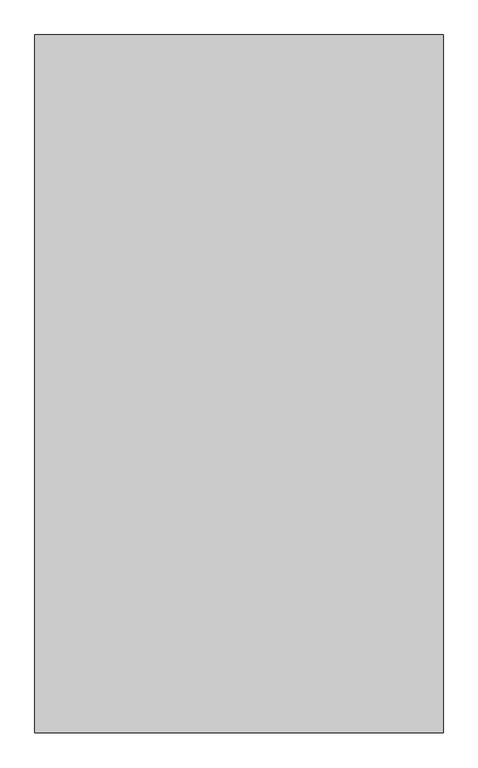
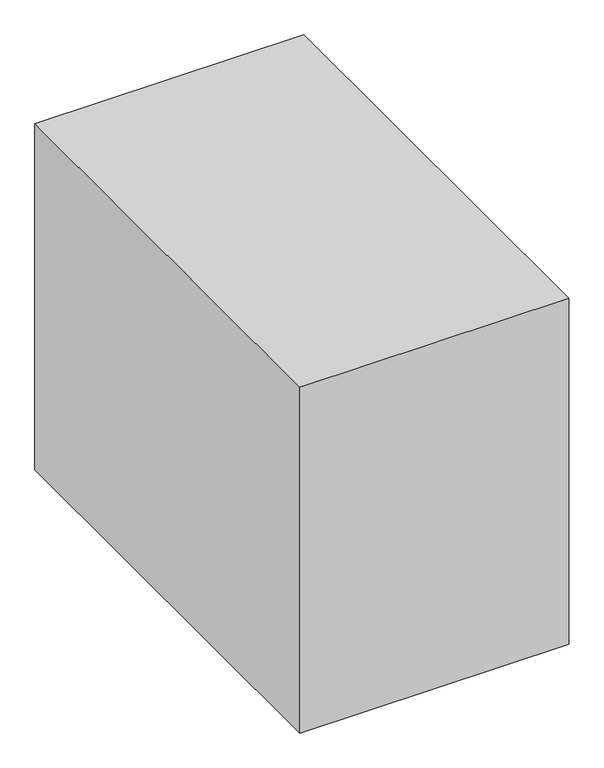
"""IFC4 building model written with IfcOpenShell, lengths in millimetres: proxy geometry."""

import ifcopenshell
import ifcopenshell.guid

model = None  # the IFC model being written
_history = None  # IfcOwnerHistory: only IFC2X3 demands one
_inside = {}  # id of a spatial element -> (the spatial element, [elements in it])
_under = {}  # id of a project, library or spatial element -> (it, [spatial elements below it])
_declared = {}  # id of a project -> (the project, [libraries it declares])
_typed = {}  # id of a type object -> (the type object, [elements of that type])
_made_of = {}  # id of a material, layer set ... -> (it, [elements and type objects made of it])


def new_model(schema):
    """Start an empty IFC model of exactly this schema.

    Asked for "IFC4X3", IfcOpenShell would pick the latest addendum, in which some entities
    have other attributes; the version numbers below select the first issue.
    IFC2X3 requires an IfcOwnerHistory on every rooted entity: one is made here for all.
    """
    global model, _history
    if schema == "IFC4X3":
        model = ifcopenshell.file(schema_version=(4, 3, 0, 0))
    else:
        model = ifcopenshell.file(schema=schema)
    _inside.clear()
    _under.clear()
    _declared.clear()
    _typed.clear()
    _made_of.clear()
    _history = None
    if model.schema == "IFC2X3":
        org = make("IfcOrganization", Name="unknown")
        user = make(
            "IfcPersonAndOrganization",
            ThePerson=make("IfcPerson", FamilyName="unknown"),
            TheOrganization=org,
        )
        app = make(
            "IfcApplication",
            ApplicationDeveloper=org,
            Version="unknown",
            ApplicationFullName="unknown",
            ApplicationIdentifier="unknown",
        )
        _history = make(
            "IfcOwnerHistory",
            OwningUser=user,
            OwningApplication=app,
            ChangeAction="ADDED",
            CreationDate=0,
        )
    return model


def make(cls, **values):
    """One entity of the class cls with the attributes given. An attribute that is None is left unset."""
    return model.create_entity(
        cls, **{name: value for name, value in values.items() if value is not None}
    )


def rooted(cls, **values):
    """An entity with a GlobalId (a new one), such as an element, a storey or a relation."""
    return make(cls, GlobalId=ifcopenshell.guid.new(), OwnerHistory=_history, **values)


def si_unit(unit_type, name, prefix=None):
    """IfcSIUnit, for example si_unit("LENGTHUNIT", "METRE", prefix="MILLI")."""
    return make("IfcSIUnit", UnitType=unit_type, Prefix=prefix, Name=name)


def assignment(units):
    """IfcUnitAssignment: the units of a project."""
    return None if units is None else make("IfcUnitAssignment", Units=units)


def point(xyz):
    """IfcCartesianPoint."""
    return None if xyz is None else make("IfcCartesianPoint", Coordinates=xyz)


def direction(xyz):
    """IfcDirection."""
    return None if xyz is None else make("IfcDirection", DirectionRatios=xyz)


def frame(location, z_axis=None, x_axis=None):
    """IfcAxis2Placement3D, a coordinate frame: its origin and axes. An axis left out is left unset."""
    return make(
        "IfcAxis2Placement3D",
        Location=point(location),
        Axis=direction(z_axis),
        RefDirection=direction(x_axis),
    )


def origin():
    """The frame at (0, 0, 0) with its axes left unset."""
    return frame((0.0, 0.0, 0.0))


def origin_with_axes():
    """The frame at (0, 0, 0) with the z axis (0, 0, 1) and the x axis (1, 0, 0) written out."""
    return frame((0.0, 0.0, 0.0), z_axis=(0.0, 0.0, 1.0), x_axis=(1.0, 0.0, 0.0))


def place(relative_to, where):
    """IfcLocalPlacement: puts the frame where relative to a parent placement (None: the world)."""
    return make(
        "IfcLocalPlacement", PlacementRelTo=relative_to, RelativePlacement=where
    )


def context(
    kind, dimensions, precision=None, world=None, true_north=None, identifier=None
):
    """IfcGeometricRepresentationContext, for example the 3D "Model" context."""
    return make(
        "IfcGeometricRepresentationContext",
        ContextIdentifier=identifier,
        ContextType=kind,
        CoordinateSpaceDimension=dimensions,
        Precision=precision,
        WorldCoordinateSystem=world,
        TrueNorth=true_north,
    )


def project(units=None, contexts=None):
    """IfcProject with its units and contexts."""
    return rooted(
        "IfcProject",
        Name="project",
        RepresentationContexts=contexts,
        UnitsInContext=assignment(units),
    )


def spatial(cls, under=None, at=None, **own):
    """A site, building, storey or space (cls), placed at a placement, below another one or the project."""
    s = rooted(cls, ObjectPlacement=at, **own)
    if under is not None:
        _under.setdefault(under.id(), (under, []))[1].append(s)
    return s


def polyline(points):
    """IfcPolyline through the points."""
    return make("IfcPolyline", Points=[point(p) for p in points])


def outline(outer, holes=None, kind="AREA"):
    """IfcArbitraryClosedProfileDef: a profile drawn as a closed curve; with holes, ...WithVoids."""
    if holes is None:
        return make("IfcArbitraryClosedProfileDef", ProfileType=kind, OuterCurve=outer)
    return make(
        "IfcArbitraryProfileDefWithVoids",
        ProfileType=kind,
        OuterCurve=outer,
        InnerCurves=holes,
    )


def extrude(swept, where, along, depth):
    """IfcExtrudedAreaSolid: the profile swept, set in the frame where, extruded along a direction by depth."""
    return make(
        "IfcExtrudedAreaSolid",
        SweptArea=swept,
        Position=where,
        ExtrudedDirection=direction(along),
        Depth=depth,
    )


def shape(context_of_items, identifier, shape_type, items):
    """IfcShapeRepresentation: the items that make up one representation, for example the "Body"."""
    return make(
        "IfcShapeRepresentation",
        ContextOfItems=context_of_items,
        RepresentationIdentifier=identifier,
        RepresentationType=shape_type,
        Items=items,
    )


def source(mapping_origin, context_of_items, identifier, shape_type, items):
    """IfcRepresentationMap: a shape defined once, which mapped items show again and again."""
    return make(
        "IfcRepresentationMap",
        MappingOrigin=mapping_origin,
        MappedRepresentation=shape(context_of_items, identifier, shape_type, items),
    )


def transform(
    local_origin,
    x_axis=None,
    y_axis=None,
    z_axis=None,
    scale=None,
    scale2=None,
    scale3=None,
    uniform=True,
):
    """IfcCartesianTransformationOperator3D, or its non-uniform kind. x_axis, y_axis, z_axis: its Axis1, 2, 3."""
    if uniform:
        return make(
            "IfcCartesianTransformationOperator3D",
            Axis1=direction(x_axis),
            Axis2=direction(y_axis),
            LocalOrigin=point(local_origin),
            Scale=scale,
            Axis3=direction(z_axis),
        )
    return make(
        "IfcCartesianTransformationOperator3DnonUniform",
        Axis1=direction(x_axis),
        Axis2=direction(y_axis),
        LocalOrigin=point(local_origin),
        Scale=scale,
        Axis3=direction(z_axis),
        Scale2=scale2,
        Scale3=scale3,
    )


def mapped(mapping_source, mapping_target):
    """IfcMappedItem: shows the shape of a source again, moved by a transform."""
    return make(
        "IfcMappedItem", MappingSource=mapping_source, MappingTarget=mapping_target
    )


def made_of(thing, what):
    """Note that an element or type object is made of a material, layer set ...; save() writes the relation."""
    if what is not None:
        _made_of.setdefault(what.id(), (what, []))[1].append(thing)
    return thing


def element(
    cls,
    number,
    at=None,
    inside=None,
    cuts=None,
    type_object=None,
    material=None,
    context=None,
    identifier="Body",
    shape_type=None,
    held_by="IfcProductDefinitionShape",
    body=None,
    shapes=None,
    **own,
):
    """One element of the class cls, such as IfcWall. Its Tag is "e" and its number.

    at: its placement. inside: the storey or other place that contains it. cuts: it is an
    opening in that element (IfcRelVoidsElement). A single representation is given by context,
    identifier, shape_type and body (its items); several are given by shapes. held_by: the class
    of the entity that holds the representations. save() writes the other relations.
    """
    e = rooted(cls, Tag="e%d" % number, ObjectPlacement=at, **own)
    if body is not None:
        shapes = [shape(context, identifier, shape_type, body)]
    if shapes is not None:
        e.Representation = make(held_by, Representations=shapes)
    if inside is not None:
        _inside.setdefault(inside.id(), (inside, []))[1].append(e)
    if cuts is not None:
        rooted(
            "IfcRelVoidsElement", RelatingBuildingElement=cuts, RelatedOpeningElement=e
        )
    if type_object is not None:
        _typed.setdefault(type_object.id(), (type_object, []))[1].append(e)
    return made_of(e, material)


def aggregate(whole, parts):
    """IfcRelAggregates: a whole, such as a stair, and the parts it consists of."""
    return rooted("IfcRelAggregates", RelatingObject=whole, RelatedObjects=parts)


def save(model, path):
    """Write the relations noted so far, then the file.

    IfcRelAggregates (storeys below a building ...), IfcRelContainedInSpatialStructure (elements
    in a storey), IfcRelDefinesByType, IfcRelAssociatesMaterial and IfcRelDeclares: one each for
    every whole, place, type object, material and project.
    """
    for whole, parts in _under.values():
        aggregate(whole, parts)
    for where, things in _inside.values():
        rooted(
            "IfcRelContainedInSpatialStructure",
            RelatedElements=things,
            RelatingStructure=where,
        )
    for kind, things in _typed.values():
        rooted("IfcRelDefinesByType", RelatedObjects=things, RelatingType=kind)
    for what, things in _made_of.values():
        rooted("IfcRelAssociatesMaterial", RelatedObjects=things, RelatingMaterial=what)
    for by, libraries in _declared.values():
        rooted("IfcRelDeclares", RelatingContext=by, RelatedDefinitions=libraries)
    model.write(path)


def generic_models_88dbdba6(model_context):
    return source(origin(), model_context, "Body", "SweptSolid", [
        extrude(outline(polyline([(-111021.8280797, -33725.2180652), (-111021.8280797, -37654.1966115), (-113321.8280797, -37654.1966115), (-113321.8280797, -33725.2180652), (-111021.8280797, -33725.2180652)])), origin_with_axes(), (0.0, 0.0, 1.0), 3130.0),
    ])


if __name__ == "__main__":
    model = new_model("IFC4")
    model_context = context("Model", 3, world=origin())
    ifc_project = project(units=[si_unit("LENGTHUNIT", "METRE", prefix="MILLI")], contexts=[model_context])
    site = spatial("IfcSite", under=ifc_project)
    building = spatial("IfcBuilding", under=site)
    placement = place(None, origin())
    generic_models_shape = generic_models_88dbdba6(model_context)
    element("IfcBuildingElementProxy", 1, Name="Generic Models", at=placement, inside=building, context=model_context, shape_type="MappedRepresentation", body=[
        mapped(generic_models_shape, transform((0.0, 0.0, 0.0), x_axis=(1.0, 0.0, 0.0), y_axis=(0.0, 1.0, 0.0), z_axis=(0.0, 0.0, 1.0))),
    ])
    save(model, "model.ifc")
